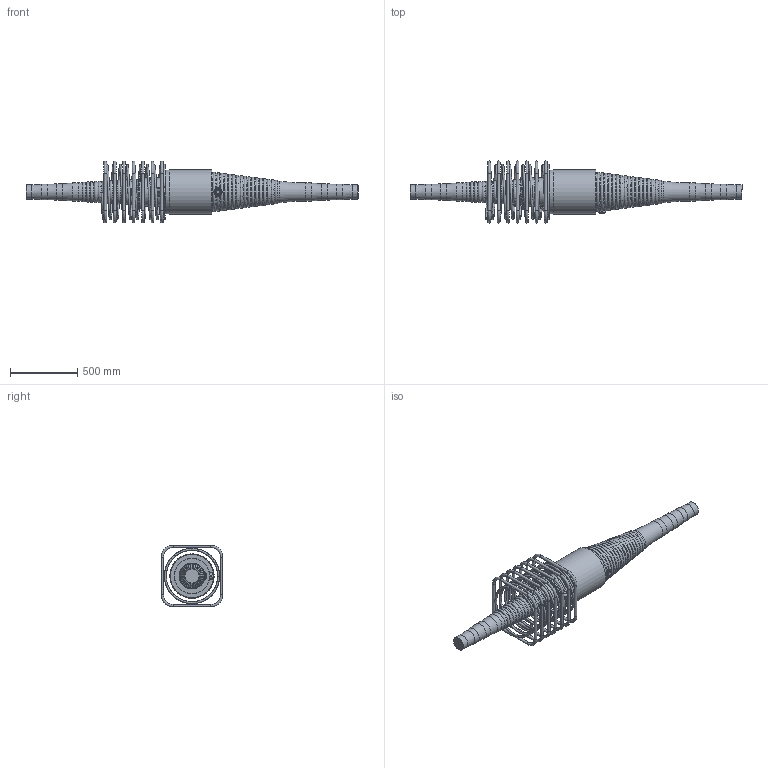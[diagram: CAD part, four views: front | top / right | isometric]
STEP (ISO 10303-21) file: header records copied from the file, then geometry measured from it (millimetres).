
FILE_DESCRIPTION(/* description */ (''),/* implementation_level */ '2;1');
FILE_NAME(/* name */ 'BBR VT CONA CMI BT 2406_Coupler H Assembly_CS-34,28.stp',/* time_stamp */ '2025-05-21T15:27:37+02:00',/* author */ ('tk'),/* organization */ (''),/* preprocessor_version */ 'ST-DEVELOPER v20',/* originating_system */ 'Autodesk Inventor 2024',/* authorisation */ '');
FILE_SCHEMA (('AUTOMOTIVE_DESIGN { 1 0 10303 214 3 1 1 }'));
Products named in the file (1): BBR VT CONA CMI BT 2406_Coupler H Assembly_CS-34,28
Bounding box: 2465.47 x 460 x 460 mm (x, y, z)
Volume: 84917386.3 mm3; surface area: 2947250 mm2
Topology: 9 solids, 9 shells, 996 faces, 2636 edges, 1704 vertices
Faces by surface type: bspline 414, plane 272, torus 153, cylinder 119, cone 36, sphere 2
Full cylindrical faces by diameter (mm): 20 x28, 34 x2, 57 x2, 104 x2, 114 x2, 124 x2, 134 x2, 208 x1, 258 x1, 263 x1, 325 x1, 330 x1
Entity records: 46744 total; most frequent: CARTESIAN_POINT 23875, ORIENTED_EDGE 5252, DIRECTION 3716, EDGE_CURVE 2626, VERTEX_POINT 1704, AXIS2_PLACEMENT_3D 1361, EDGE_LOOP 1068, FACE_OUTER_BOUND 996
